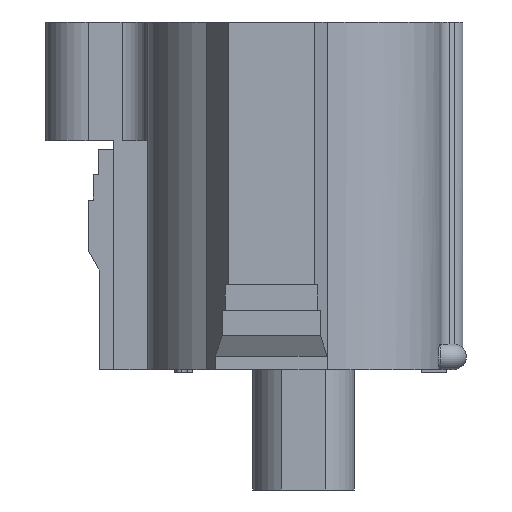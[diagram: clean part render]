
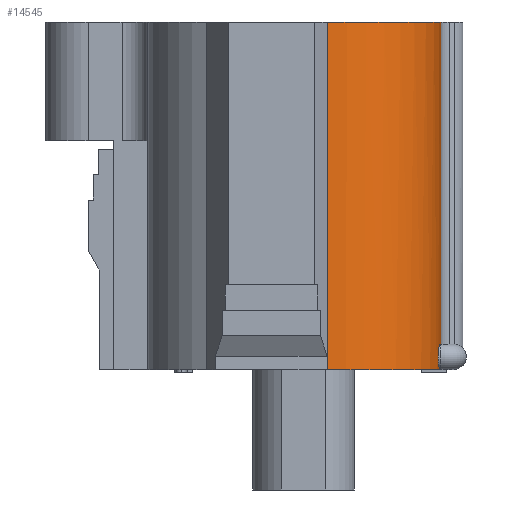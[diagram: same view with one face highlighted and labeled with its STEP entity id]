
A CAD part, left-side view. The second image highlights one B-rep face of the part: STEP entity #14545.
In plain terms, the highlighted cylindrical face has radius 6.9 mm (diameter 13.8 mm), a partial arc.
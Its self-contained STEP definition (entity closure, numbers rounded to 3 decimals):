
#112=CARTESIAN_POINT('',(-13.4,-1.75,0.));
#113=DIRECTION('',(0.,0.,1.));
#114=DIRECTION('',(-1.,-0.029,0.));
#115=AXIS2_PLACEMENT_3D('',#112,#113,#114);
#444=DIRECTION('',(0.,0.,-1.));
#445=VECTOR('',#444,19.);
#446=CARTESIAN_POINT('',(-13.4,-8.65,0.));
#447=LINE('',#446,#445);
#475=CARTESIAN_POINT('',(-13.4,-1.75,-19.));
#476=DIRECTION('',(0.,0.,1.));
#477=DIRECTION('',(-0.109,-0.994,0.));
#478=AXIS2_PLACEMENT_3D('',#475,#476,#477);
#4736=DIRECTION('',(0.,0.,-1.));
#4737=VECTOR('',#4736,19.718);
#4738=CARTESIAN_POINT('',(-20.297,-1.952,0.));
#4739=LINE('',#4738,#4737);
#4740=CARTESIAN_POINT('',(-14.15,-8.609,-19.));
#4741=CARTESIAN_POINT('',(-14.223,-8.601,-19.));
#4742=CARTESIAN_POINT('',(-14.364,-8.583,
-19.021));
#4743=CARTESIAN_POINT('',(-14.563,-8.552,
-19.112));
#4744=CARTESIAN_POINT('',(-14.727,-8.522,
-19.255));
#4745=CARTESIAN_POINT('',(-14.843,-8.498,
-19.438));
#4746=CARTESIAN_POINT('',(-14.902,-8.484,
-19.643));
#4747=CARTESIAN_POINT('',(-14.902,-8.484,
-19.857));
#4748=CARTESIAN_POINT('',(-14.843,-8.498,
-20.062));
#4749=CARTESIAN_POINT('',(-14.727,-8.522,
-20.245));
#4750=CARTESIAN_POINT('',(-14.563,-8.552,
-20.388));
#4751=CARTESIAN_POINT('',(-14.364,-8.583,
-20.479));
#4752=CARTESIAN_POINT('',(-14.223,-8.601,-20.5));
#4753=CARTESIAN_POINT('',(-14.15,-8.609,-20.5));
#4755=CARTESIAN_POINT('',(-13.4,-1.75,-20.5));
#4756=DIRECTION('',(0.,0.,-1.));
#4757=DIRECTION('',(-0.109,-0.994,0.));
#4758=AXIS2_PLACEMENT_3D('',#4755,#4756,#4757);
#4760=DIRECTION('',(0.,0.,1.));
#4761=VECTOR('',#4760,0.782);
#4762=CARTESIAN_POINT('',(-20.297,-1.952,-20.5));
#4763=LINE('',#4762,#4761);
#6789=CARTESIAN_POINT('',(-20.297,-1.952,0.));
#6790=VERTEX_POINT('',#6789);
#6791=CARTESIAN_POINT('',(-13.4,-8.65,0.));
#6792=VERTEX_POINT('',#6791);
#6795=CARTESIAN_POINT('',(-13.4,-8.65,-19.));
#6796=VERTEX_POINT('',#6795);
#7447=CARTESIAN_POINT('',(-20.297,-1.952,
-19.718));
#7448=VERTEX_POINT('',#7447);
#7451=CARTESIAN_POINT('',(-20.297,-1.952,-20.5));
#7452=VERTEX_POINT('',#7451);
#7493=CARTESIAN_POINT('',(-14.15,-8.609,-19.));
#7494=VERTEX_POINT('',#7493);
#7495=CARTESIAN_POINT('',(-14.15,-8.609,-20.5));
#7496=VERTEX_POINT('',#7495);
#14529=CARTESIAN_POINT('',(-13.4,-1.75,0.));
#14530=DIRECTION('',(0.,0.,1.));
#14531=DIRECTION('',(1.,0.,0.));
#14532=AXIS2_PLACEMENT_3D('',#14529,#14530,#14531);
#14533=CYLINDRICAL_SURFACE('',#14532,6.9);
#14534=ORIENTED_EDGE('',*,*,#14514,.F.);
#14535=ORIENTED_EDGE('',*,*,#8882,.T.);
#14536=ORIENTED_EDGE('',*,*,#9189,.T.);
#14537=ORIENTED_EDGE('',*,*,#9244,.F.);
#14539=ORIENTED_EDGE('',*,*,#14538,.T.);
#14540=ORIENTED_EDGE('',*,*,#9828,.T.);
#14542=ORIENTED_EDGE('',*,*,#14541,.T.);
#14543=EDGE_LOOP('',(#14534,#14535,#14536,#14537,#14539,#14540,#14542));
#14544=FACE_OUTER_BOUND('',#14543,.F.);
#14545=ADVANCED_FACE('',(#14544),#14533,.T.);
#116=CIRCLE('',#115,6.9);
#479=CIRCLE('',#478,6.9);
#4754=B_SPLINE_CURVE_WITH_KNOTS('',3,(#4740,#4741,#4742,#4743,#4744,#4745,#4746,
#4747,#4748,#4749,#4750,#4751,#4752,#4753),.UNSPECIFIED.,.F.,.F.,(4,1,1,1,1,1,1,
1,1,1,1,4),(0.,0.091,0.182,0.273,
0.364,0.455,0.545,0.636,
0.727,0.818,0.909,1.),.UNSPECIFIED.);
#4759=CIRCLE('',#4758,6.9);
#8882=EDGE_CURVE('',#6790,#6792,#116,.T.);
#9189=EDGE_CURVE('',#6792,#6796,#447,.T.);
#9244=EDGE_CURVE('',#7494,#6796,#479,.T.);
#9828=EDGE_CURVE('',#7496,#7452,#4759,.T.);
#14514=EDGE_CURVE('',#6790,#7448,#4739,.T.);
#14538=EDGE_CURVE('',#7494,#7496,#4754,.T.);
#14541=EDGE_CURVE('',#7452,#7448,#4763,.T.);
